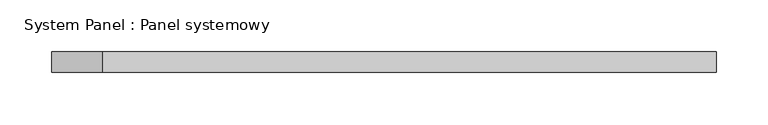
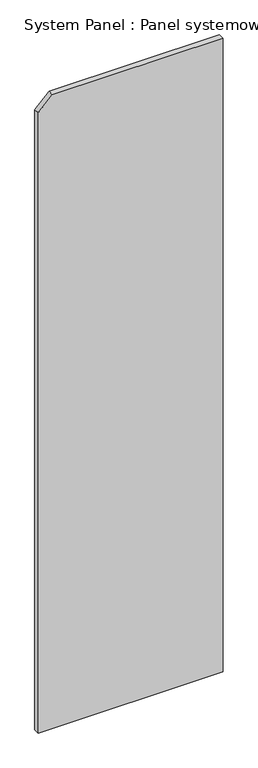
"""IFC4 building model written with IfcOpenShell, lengths in millimetres: plate geometry, System Panel : Panel systemowy."""

from ifc_helpers import new_model, si_unit, frame, origin, place, context, project, spatial, polyline, outline, extrude, source, transform, mapped, element, save


def system_panel_panel_systemowy_7ffbe8bb(model_context):
    return source(origin(), model_context, "Body", "SweptSolid", [
        extrude(outline(polyline([(0.0, -320.8333333), (0.0, 320.8333333), (2325.0, 320.8333333), (2325.0, -271.5692647), (2275.7359314, -320.8333333), (0.0, -320.8333333)])), frame((0.0, -10.0, 0.0), z_axis=(0.0, 1.0, 0.0), x_axis=(0.0, 0.0, 1.0)), (0.0, 0.0, 1.0), 20.0),
    ])


if __name__ == "__main__":
    model = new_model("IFC4")
    model_context = context("Model", 3, world=origin())
    ifc_project = project(units=[si_unit("LENGTHUNIT", "METRE", prefix="MILLI")], contexts=[model_context])
    site = spatial("IfcSite", under=ifc_project)
    building = spatial("IfcBuilding", under=site)
    placement = place(None, origin())
    system_panel_panel_systemowy_shape = system_panel_panel_systemowy_7ffbe8bb(model_context)
    element("IfcPlate", 1, ObjectType="System Panel : Panel systemowy", at=placement, inside=building, context=model_context, shape_type="MappedRepresentation", body=[
        mapped(system_panel_panel_systemowy_shape, transform((0.0, 0.0, 0.0), x_axis=(1.0, 0.0, 0.0), y_axis=(0.0, 1.0, 0.0), z_axis=(0.0, 0.0, 1.0))),
    ])
    save(model, "model.ifc")
